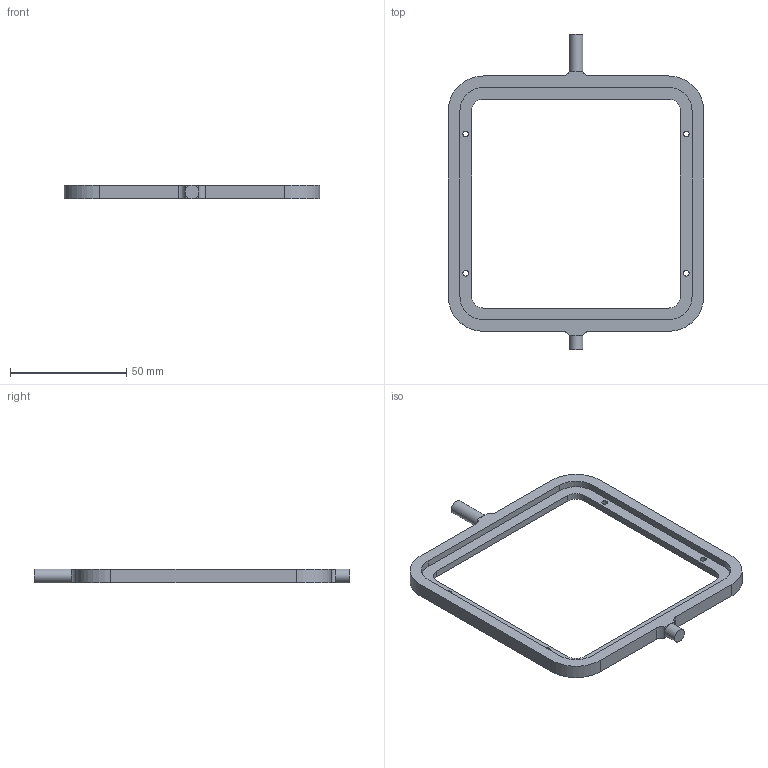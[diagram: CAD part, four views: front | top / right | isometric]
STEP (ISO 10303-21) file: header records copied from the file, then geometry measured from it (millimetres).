
FILE_DESCRIPTION(/* description */ (''),/* implementation_level */ '2;1');
FILE_NAME(/* name */ 'CWC-SE0002-P04_Sensing Frame.stp',/* time_stamp */ '2026-04-28T16:08:53+02:00',/* author */ (''),/* organization */ (''),/* preprocessor_version */ 'ST-DEVELOPER v18.1',/* originating_system */ 'SIEMENS PLM Software NX 1988',/* authorisation */ '');
FILE_SCHEMA (('AUTOMOTIVE_DESIGN { 1 0 10303 214 3 1 1 1 }'));
Length unit declared in the file: millimetre
Products named in the file (1): anto6558201A7esu
Bounding box: 110 x 136 x 6 mm (x, y, z)
Volume: 18206.9 mm3; surface area: 12895.5 mm2
Topology: 1 solids, 1 shells, 49 faces, 132 edges, 86 vertices
Faces by surface type: plane 27, cylinder 22
Full cylindrical faces by diameter (mm): 2.5 x4, 6 x2
Entity records: 1534 total; most frequent: DIRECTION 272, CARTESIAN_POINT 254, ORIENTED_EDGE 244, EDGE_CURVE 122, AXIS2_PLACEMENT_3D 100, VERTEX_POINT 82, LINE 72, VECTOR 72
